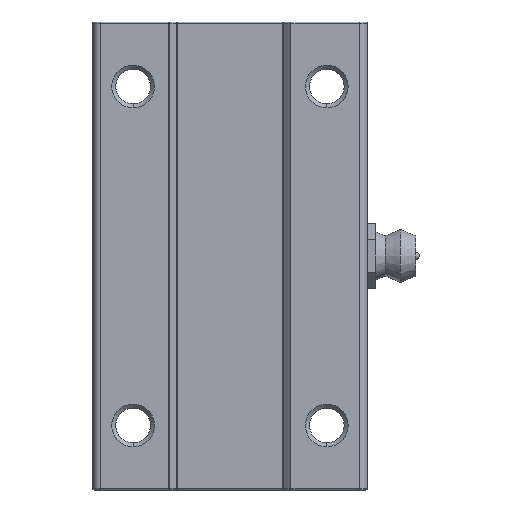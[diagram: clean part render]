
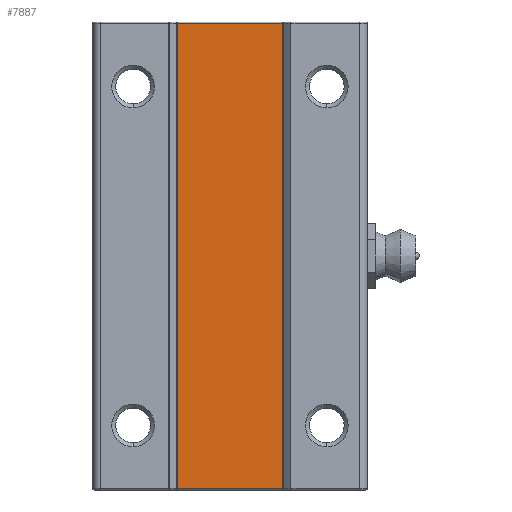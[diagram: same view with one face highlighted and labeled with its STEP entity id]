
A CAD part, front view. The second image highlights one B-rep face of the part: STEP entity #7887.
In plain terms, the highlighted planar face has unit normal (0, -1, 0).
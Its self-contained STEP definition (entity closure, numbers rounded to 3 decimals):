
#682 = CARTESIAN_POINT ( 'NONE',  ( 6.538, -10.55, 0.15 ) ) ;
#1938 = EDGE_CURVE ( 'NONE', #10631, #14929, #7274, .T. ) ;
#1996 = DIRECTION ( 'NONE',  ( -1., 0., 0. ) ) ;
#2691 = ORIENTED_EDGE ( 'NONE', *, *, #1938, .T. ) ;
#2833 = EDGE_CURVE ( 'NONE', #14929, #9511, #7904, .T. ) ;
#3181 = ORIENTED_EDGE ( 'NONE', *, *, #7160, .T. ) ;
#3512 = VECTOR ( 'NONE', #14871, 1000. ) ;
#4240 = FACE_OUTER_BOUND ( 'NONE', #13573, .T. ) ;
#4411 = CARTESIAN_POINT ( 'NONE',  ( -6.6, -10.55, 58. ) ) ;
#5031 = VECTOR ( 'NONE', #7516, 1000. ) ;
#6289 = ORIENTED_EDGE ( 'NONE', *, *, #11893, .T. ) ;
#6297 = CARTESIAN_POINT ( 'NONE',  ( -6.538, -10.55, 0. ) ) ;
#7032 = ORIENTED_EDGE ( 'NONE', *, *, #2833, .T. ) ;
#7160 = EDGE_CURVE ( 'NONE', #9511, #8362, #12900, .T. ) ;
#7274 = LINE ( 'NONE', #15413, #13422 ) ;
#7516 = DIRECTION ( 'NONE',  ( -1., 0., 0. ) ) ;
#7866 = VECTOR ( 'NONE', #12719, 1000. ) ;
#7887 = ADVANCED_FACE ( 'NONE', ( #4240 ), #12966, .F. ) ;
#7904 = LINE ( 'NONE', #8747, #5031 ) ;
#7972 = CARTESIAN_POINT ( 'NONE',  ( -6.538, -10.55, 0.15 ) ) ;
#8362 = VERTEX_POINT ( 'NONE', #7972 ) ;
#8747 = CARTESIAN_POINT ( 'NONE',  ( -6.6, -10.55, 57.85 ) ) ;
#9340 = DIRECTION ( 'NONE',  ( 0., 1., 0. ) ) ;
#9511 = VERTEX_POINT ( 'NONE', #12846 ) ;
#10631 = VERTEX_POINT ( 'NONE', #682 ) ;
#11132 = LINE ( 'NONE', #11482, #7866 ) ;
#11274 = CARTESIAN_POINT ( 'NONE',  ( 6.538, -10.55, 57.85 ) ) ;
#11482 = CARTESIAN_POINT ( 'NONE',  ( 6.6, -10.55, 0.15 ) ) ;
#11893 = EDGE_CURVE ( 'NONE', #8362, #10631, #11132, .T. ) ;
#12719 = DIRECTION ( 'NONE',  ( 1., 0., 0. ) ) ;
#12846 = CARTESIAN_POINT ( 'NONE',  ( -6.538, -10.55, 57.85 ) ) ;
#12900 = LINE ( 'NONE', #6297, #3512 ) ;
#12966 = PLANE ( 'NONE',  #13957 ) ;
#13422 = VECTOR ( 'NONE', #14349, 1000. ) ;
#13573 = EDGE_LOOP ( 'NONE', ( #6289, #2691, #7032, #3181 ) ) ;
#13957 = AXIS2_PLACEMENT_3D ( 'NONE', #4411, #9340, #1996 ) ;
#14349 = DIRECTION ( 'NONE',  ( 0., 0., 1. ) ) ;
#14871 = DIRECTION ( 'NONE',  ( 0., 0., -1. ) ) ;
#14929 = VERTEX_POINT ( 'NONE', #11274 ) ;
#15413 = CARTESIAN_POINT ( 'NONE',  ( 6.538, -10.55, 58. ) ) ;
